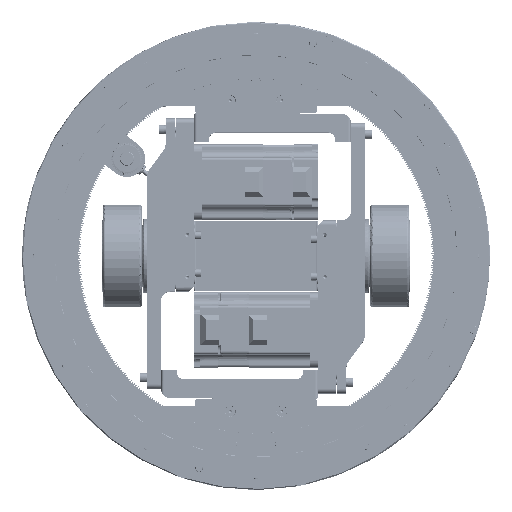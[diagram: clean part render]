
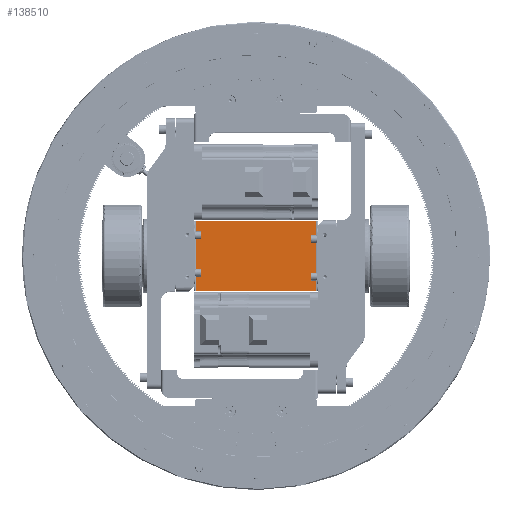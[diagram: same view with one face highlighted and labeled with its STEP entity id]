
A CAD part, top view. The second image highlights one B-rep face of the part: STEP entity #138510.
In plain terms, the highlighted planar face has unit normal (0, 0, 1).
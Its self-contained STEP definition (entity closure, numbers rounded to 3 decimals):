
#9637 = CARTESIAN_POINT ( 'NONE',  ( -70.191, -20.141, -39. ) ) ;
#20359 = ORIENTED_EDGE ( 'NONE', *, *, #289473, .T. ) ;
#22248 = DIRECTION ( 'NONE',  ( 0., -1., 0. ) ) ;
#32938 = CARTESIAN_POINT ( 'NONE',  ( -156.191, 29.859, -39. ) ) ;
#42823 = CARTESIAN_POINT ( 'NONE',  ( -113.191, -20.141, -39. ) ) ;
#60427 = DIRECTION ( 'NONE',  ( 0., 0., 1. ) ) ;
#62909 = FACE_OUTER_BOUND ( 'NONE', #434741, .T. ) ;
#126056 = CARTESIAN_POINT ( 'NONE',  ( -156.191, 54.859, -39. ) ) ;
#133523 = CARTESIAN_POINT ( 'NONE',  ( -27.191, -20.141, -39. ) ) ;
#135758 = ORIENTED_EDGE ( 'NONE', *, *, #241526, .T. ) ;
#138510 = ADVANCED_FACE ( 'NONE', ( #62909 ), #179822, .T. ) ;
#146103 = VERTEX_POINT ( 'NONE', #221622 ) ;
#176676 = CARTESIAN_POINT ( 'NONE',  ( -27.191, 54.859, -39. ) ) ;
#179822 = PLANE ( 'NONE',  #334937 ) ;
#191916 = CARTESIAN_POINT ( 'NONE',  ( -27.191, 54.859, -39. ) ) ;
#197569 = B_SPLINE_CURVE_WITH_KNOTS ( 'NONE', 3,
 ( #126056, #32938, #240409, #264160 ),
 .UNSPECIFIED., .F., .F.,
 ( 4, 4 ),
 ( 0., 1. ),
 .UNSPECIFIED. ) ;
#215389 = ORIENTED_EDGE ( 'NONE', *, *, #498493, .T. ) ;
#215506 = CARTESIAN_POINT ( 'NONE',  ( -158.191, -20.141, -39. ) ) ;
#221622 = CARTESIAN_POINT ( 'NONE',  ( -156.191, 54.859, -39. ) ) ;
#240409 = CARTESIAN_POINT ( 'NONE',  ( -156.191, 4.859, -39. ) ) ;
#241526 = EDGE_CURVE ( 'NONE', #383547, #421496, #316605, .T. ) ;
#246147 = CARTESIAN_POINT ( 'NONE',  ( -27.191, -20.141, -39. ) ) ;
#254153 = VERTEX_POINT ( 'NONE', #402473 ) ;
#264160 = CARTESIAN_POINT ( 'NONE',  ( -156.191, -20.141, -39. ) ) ;
#289473 = EDGE_CURVE ( 'NONE', #146103, #383547, #197569, .T. ) ;
#295371 = B_SPLINE_CURVE_WITH_KNOTS ( 'NONE', 3,
 ( #133523, #402975, #369845, #176676 ),
 .UNSPECIFIED., .F., .F.,
 ( 4, 4 ),
 ( 0., 1. ),
 .UNSPECIFIED. ) ;
#308697 = CARTESIAN_POINT ( 'NONE',  ( -156.191, 54.859, -39. ) ) ;
#316252 = CARTESIAN_POINT ( 'NONE',  ( -70.191, 54.859, -39. ) ) ;
#316605 = B_SPLINE_CURVE_WITH_KNOTS ( 'NONE', 3,
 ( #395999, #42823, #9637, #467360 ),
 .UNSPECIFIED., .F., .F.,
 ( 4, 4 ),
 ( 0., 1. ),
 .UNSPECIFIED. ) ;
#334937 = AXIS2_PLACEMENT_3D ( 'NONE', #215506, #60427, #22248 ) ;
#341015 = CARTESIAN_POINT ( 'NONE',  ( -156.191, -20.141, -39. ) ) ;
#369845 = CARTESIAN_POINT ( 'NONE',  ( -27.191, 29.859, -39. ) ) ;
#383547 = VERTEX_POINT ( 'NONE', #341015 ) ;
#390838 = ORIENTED_EDGE ( 'NONE', *, *, #442883, .T. ) ;
#395999 = CARTESIAN_POINT ( 'NONE',  ( -156.191, -20.141, -39. ) ) ;
#402473 = CARTESIAN_POINT ( 'NONE',  ( -27.191, 54.859, -39. ) ) ;
#402975 = CARTESIAN_POINT ( 'NONE',  ( -27.191, 4.859, -39. ) ) ;
#421496 = VERTEX_POINT ( 'NONE', #246147 ) ;
#434741 = EDGE_LOOP ( 'NONE', ( #135758, #215389, #390838, #20359 ) ) ;
#442883 = EDGE_CURVE ( 'NONE', #254153, #146103, #494424, .T. ) ;
#467360 = CARTESIAN_POINT ( 'NONE',  ( -27.191, -20.141, -39. ) ) ;
#494424 = B_SPLINE_CURVE_WITH_KNOTS ( 'NONE', 3,
 ( #191916, #316252, #502119, #308697 ),
 .UNSPECIFIED., .F., .F.,
 ( 4, 4 ),
 ( 0., 1. ),
 .UNSPECIFIED. ) ;
#498493 = EDGE_CURVE ( 'NONE', #421496, #254153, #295371, .T. ) ;
#502119 = CARTESIAN_POINT ( 'NONE',  ( -113.191, 54.859, -39. ) ) ;
